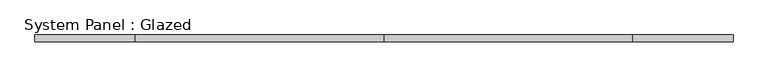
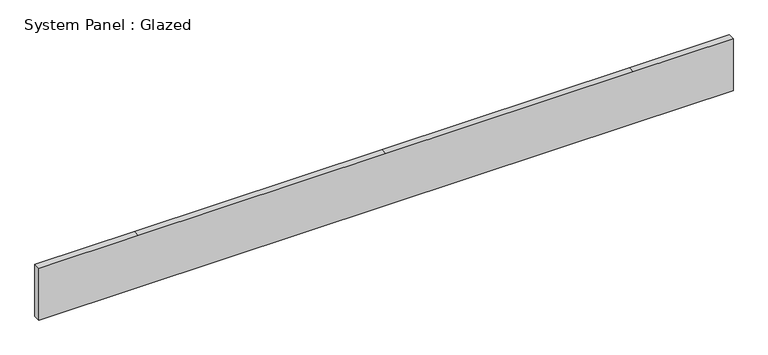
"""IFC4 building model written with IfcOpenShell, lengths in millimetres: plate geometry, System Panel : Glazed."""

from ifc_helpers import new_model, si_unit, frame, origin, place, context, project, spatial, polyline, outline, extrude, source, transform, mapped, element, save


def system_panel_glazed_aad5485d(model_context):
    return source(origin(), model_context, "Body", "SweptSolid", [
        extrude(outline(polyline([(0.0, -1327.15), (0.0, -946.15), (0.0, 0.0), (0.0, 946.15), (0.0, 1327.15), (209.55, 1327.15), (209.55, 946.15), (209.55, 0.0), (209.55, -946.15), (209.55, -1327.15), (0.0, -1327.15)])), frame((0.0, 19.05, 0.0), z_axis=(0.0, 1.0, 0.0), x_axis=(0.0, 0.0, 1.0)), (0.0, 0.0, 1.0), 25.4),
    ])


if __name__ == "__main__":
    model = new_model("IFC4")
    model_context = context("Model", 3, world=origin())
    ifc_project = project(units=[si_unit("LENGTHUNIT", "METRE", prefix="MILLI")], contexts=[model_context])
    site = spatial("IfcSite", under=ifc_project)
    building = spatial("IfcBuilding", under=site)
    placement = place(None, origin())
    system_panel_glazed_shape = system_panel_glazed_aad5485d(model_context)
    element("IfcPlate", 1, ObjectType="System Panel : Glazed", at=placement, inside=building, context=model_context, shape_type="MappedRepresentation", body=[
        mapped(system_panel_glazed_shape, transform((0.0, 0.0, 0.0), x_axis=(1.0, 0.0, 0.0), y_axis=(0.0, 1.0, 0.0), z_axis=(0.0, 0.0, 1.0))),
    ])
    save(model, "model.ifc")
